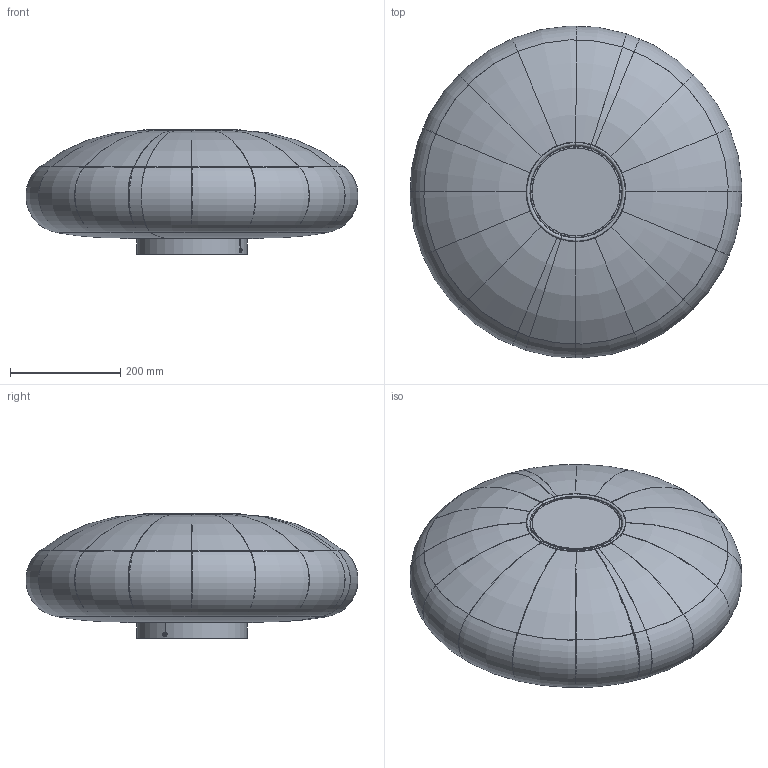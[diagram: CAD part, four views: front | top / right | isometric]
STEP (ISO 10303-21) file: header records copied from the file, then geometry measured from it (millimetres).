
FILE_DESCRIPTION (( 'STEP AP203' ), '1' );
FILE_NAME ('CA.W060.16.STEP', '2026-03-09T14:00:29', ( '' ), ( '' ), 'SwSTEP 2.0', 'SolidWorks 2013', '' );
FILE_SCHEMA (( 'CONFIG_CONTROL_DESIGN' ));
Length unit declared in the file: millimetre
Products named in the file (11): dissipador AL. Ø61x3; CA.W060.16; AR109_Floró ø200x35 3T 2xM4 sistema USA MODIFICAT; Led Suport Ø165; Pantalla teixit Ø600x190; Armaço cala gran; KO178_EggDrop_Ø38 8W; DIN7380 M3x6; Disc làser Ø160x3 3P M3x8_Alumini; AG019_M4x8; HOLDER_eggdrop Ø38
Assembly tree (13 placements, depth 3):
  CA.W060.16
    Armaço cala gran
    AR109_Floró ø200x35 3T 2xM4 sistema USA MODIFICAT
    Led Suport Ø165
      Disc làser Ø160x3 3P M3x8_Alumini
      HOLDER_eggdrop Ø38
      KO178_EggDrop_Ø38 8W
      dissipador AL. Ø61x3
    DIN7380 M3x6  x3
    AG019_M4x8  x2
    Pantalla teixit Ø600x190
Bounding box: 602.03 x 602.03 x 225.26 mm (x, y, z)
Volume: 648741.6 mm3; surface area: 1746510.2 mm2
Topology: 14 solids, 14 shells, 468 faces, 1174 edges, 712 vertices
Faces by surface type: torus 188, cylinder 142, plane 106, cone 28, bspline 4
Entity records: 15637 total; most frequent: CARTESIAN_POINT 4202, DIRECTION 2386, ORIENTED_EDGE 2064, AXIS2_PLACEMENT_3D 1078, EDGE_CURVE 1032, CIRCLE 658, VERTEX_POINT 622, EDGE_LOOP 462
